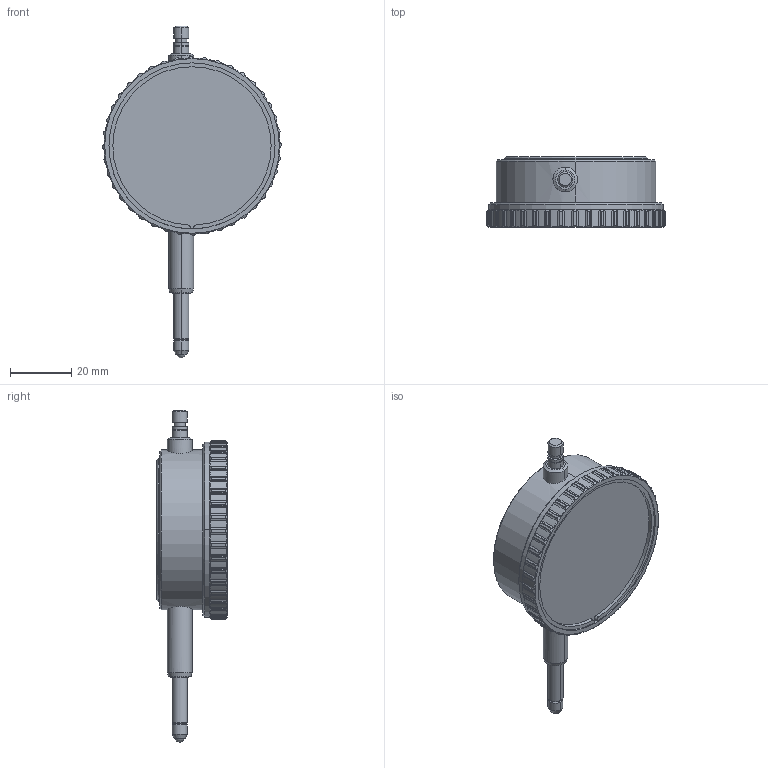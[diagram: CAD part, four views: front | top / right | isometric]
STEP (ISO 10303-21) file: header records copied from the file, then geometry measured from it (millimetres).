
FILE_DESCRIPTION(('STEP AP214'),'1');
FILE_NAME('SI-9-0,1.STP','2016-07-21T05:12:53',(' '),(' '),'Spatial InterOp 3D',' ',' ');
FILE_SCHEMA(('automotive_design'));
Length unit declared in the file: millimetre
Products named in the file (1): 1
Bounding box: 58 x 23 x 107.99 mm (x, y, z)
Volume: 50153.7 mm3; surface area: 10424.5 mm2
Topology: 1 solids, 4 shells, 380 faces, 1044 edges, 688 vertices
Faces by surface type: cylinder 233, plane 118, cone 28, sphere 1
Entity records: 13610 total; most frequent: CARTESIAN_POINT 4514, ORIENTED_EDGE 2088, DIRECTION 1746, EDGE_CURVE 1044, AXIS2_PLACEMENT_3D 689, VERTEX_POINT 688, EDGE_LOOP 402, ADVANCED_FACE 380
